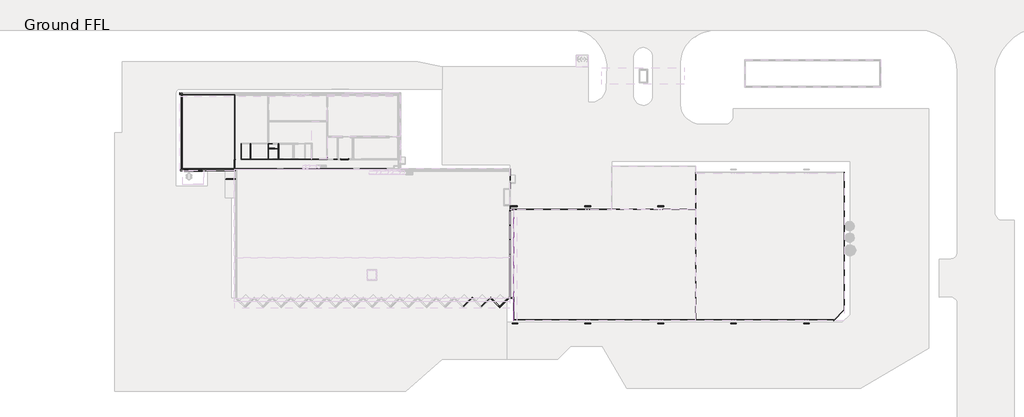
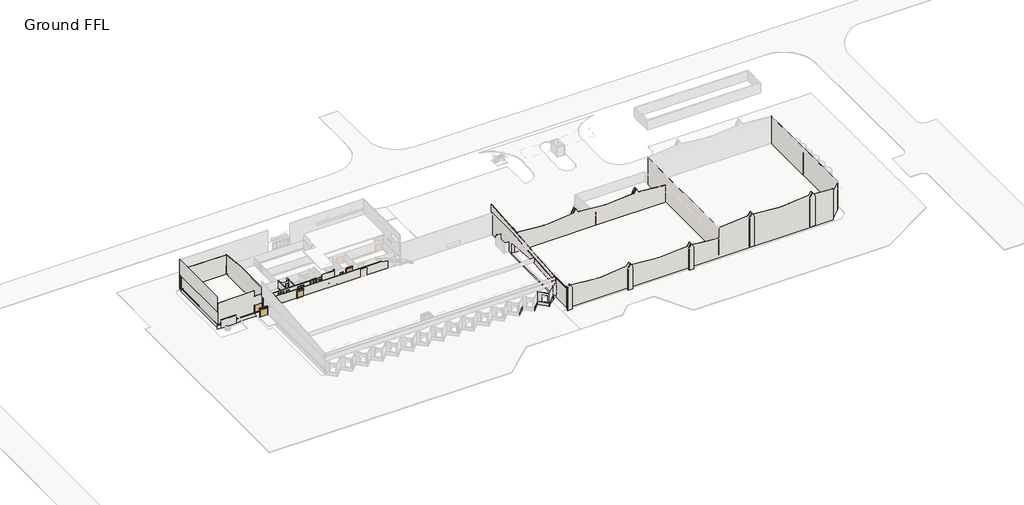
# One storey, part 3 of 7: 37 walls, 17 doors, 3 members, 2 plates.
"""IFC4 building model written with IfcOpenShell, lengths in millimetres."""

from ifc_helpers import new_model, si_unit, frame, origin, place, context, project, spatial, polyline, outline, extrude, faceted_brep, transform, mapped, element, save
from components import door_dfba81bd, door_a911d68e, door_e08fb2c4, door_3f0b7e55, door_2c6974ce, m_single_flush_1050_x_2134mm_707e642e, m_single_flush_1050_x_2134mm_0959f944, m_single_flush_1050_x_3000mm_fa7f7131, m_single_flush_1050_x_3000mm_ec5adb8e, rectangular_mullion_50_x_150mm_662c37b1, rectangular_mullion_50_x_150mm_849620c7, rectangular_mullion_50_x_150mm_64d38db8, system_panel_glazed_b6d9ad77, system_panel_glazed_a5baa60f

model = new_model("IFC4")

# Units and contexts
model_context = context("Model", 3, world=origin())
ifc_project = project(units=[si_unit("LENGTHUNIT", "METRE", prefix="MILLI")], contexts=[model_context])

# Site, building, storey
site = spatial("IfcSite", under=ifc_project)
building = spatial("IfcBuilding", under=site)
storey = spatial("IfcBuildingStorey", under=building, Name="Ground FFL", Elevation=44170.0)

# Doors
placement = place(None, origin())
door_shape = door_dfba81bd(model_context)
element("IfcDoor", 1, ObjectType="Rollershutter : 3000(w) x 3000(h)", at=placement, inside=storey, context=model_context, shape_type="MappedRepresentation", body=[
    mapped(door_shape, transform((-135297.9372768, 13108.2777512, 44170.0), x_axis=(0.0, -1.0, 0.0), y_axis=(1.0, 0.0, 0.0), z_axis=(0.0, 0.0, 1.0))),
])
door_2_shape = door_a911d68e(model_context)
element("IfcDoor", 2, ObjectType="Rollershutter : 3000(w) x 3000(h)", at=placement, inside=storey, context=model_context, shape_type="MappedRepresentation", body=[
    mapped(door_2_shape, transform((-137022.9372768, 8594.2225353, 44170.0), x_axis=(-1.0, 0.0, 0.0), y_axis=(0.0, -1.0, 0.0), z_axis=(0.0, 0.0, 1.0))),
])
door_3_shape = door_e08fb2c4(model_context)
element("IfcDoor", 3, ObjectType="Rollershutter : 3000(w) x 3000(h)", at=placement, inside=storey, context=model_context, shape_type="MappedRepresentation", body=[
    mapped(door_3_shape, transform((-137238.5917799, 11933.2777512, 44170.0), x_axis=(-1.0, 0.0, 0.0), y_axis=(0.0, -1.0, 0.0), z_axis=(0.0, 0.0, 1.0))),
])
door_4_shape = door_3f0b7e55(model_context)
element("IfcDoor", 4, ObjectType="Rollershutter : 25000(w) x 3000(h)", at=placement, inside=storey, context=model_context, shape_type="MappedRepresentation", body=[
    mapped(door_4_shape, transform((-120745.8776883, 11958.2777512, 44170.0), x_axis=(-1.0, 0.0, 0.0), y_axis=(0.0, -1.0, 0.0), z_axis=(0.0, 0.0, 1.0))),
])
door_5_shape = door_2c6974ce(model_context)
element("IfcDoor", 5, ObjectType="Rollershutter : 25000(w) x 3000(h)", at=placement, inside=storey, context=model_context, shape_type="MappedRepresentation", body=[
    mapped(door_5_shape, transform((-98727.9372768, 15157.4703267, 44170.0), x_axis=(1.0, 0.0, 0.0), y_axis=(0.0, 1.0, 0.0), z_axis=(0.0, 0.0, 1.0))),
])
m_single_flush_1050_x_2134mm_shape = m_single_flush_1050_x_2134mm_707e642e(model_context)
element("IfcDoor", 6, ObjectType="M_Single-Flush : 1050 x 2134mm", at=placement, inside=storey, context=model_context, shape_type="MappedRepresentation", body=[
    mapped(m_single_flush_1050_x_2134mm_shape, transform((-125486.9997768, 15157.4703267, 44170.0), x_axis=(1.0, 0.0, 0.0), y_axis=(0.0, 1.0, 0.0), z_axis=(0.0, 0.0, 1.0))),
])
element("IfcDoor", 7, ObjectType="M_Single-Flush : 1050 x 2134mm", at=placement, inside=storey, context=model_context, shape_type="MappedRepresentation", body=[
    mapped(m_single_flush_1050_x_2134mm_shape, transform((-123552.3747667, 20257.4925063, 44170.0), x_axis=(-1.0, 0.0, 0.0), y_axis=(0.0, -1.0, 0.0), z_axis=(0.0, 0.0, 1.0))),
])
element("IfcDoor", 8, ObjectType="M_Single-Flush : 1050 x 2134mm", at=placement, inside=storey, context=model_context, shape_type="MappedRepresentation", body=[
    mapped(m_single_flush_1050_x_2134mm_shape, transform((-117720.8747667, 15157.4703267, 44170.0), x_axis=(1.0, 0.0, 0.0), y_axis=(0.0, 1.0, 0.0), z_axis=(0.0, 0.0, 1.0))),
])
element("IfcDoor", 9, ObjectType="M_Single-Flush : 1050 x 2134mm", at=placement, inside=storey, context=model_context, shape_type="MappedRepresentation", body=[
    mapped(m_single_flush_1050_x_2134mm_shape, transform((-110705.4372768, 15157.4703267, 44170.0), x_axis=(1.0, 0.0, 0.0), y_axis=(0.0, 1.0, 0.0), z_axis=(0.0, 0.0, 1.0))),
])
element("IfcDoor", 10, ObjectType="M_Single-Flush : 1050 x 2134mm", at=placement, inside=storey, context=model_context, shape_type="MappedRepresentation", body=[
    mapped(m_single_flush_1050_x_2134mm_shape, transform((-102122.9372768, 15157.4703267, 44170.0), x_axis=(1.0, 0.0, 0.0), y_axis=(0.0, 1.0, 0.0), z_axis=(0.0, 0.0, 1.0))),
])
m_single_flush_1050_x_2134mm_2_shape = m_single_flush_1050_x_2134mm_0959f944(model_context)
element("IfcDoor", 11, ObjectType="M_Single-Flush : 1050 x 2134mm", at=placement, inside=storey, context=model_context, shape_type="MappedRepresentation", body=[
    mapped(m_single_flush_1050_x_2134mm_2_shape, transform((-132522.9372768, 15157.4703267, 44170.0), x_axis=(-1.0, 0.0, 0.0), y_axis=(0.0, -1.0, 0.0), z_axis=(0.0, 0.0, 1.0))),
])
element("IfcDoor", 12, ObjectType="M_Single-Flush : 1050 x 2134mm", at=placement, inside=storey, context=model_context, shape_type="MappedRepresentation", body=[
    mapped(m_single_flush_1050_x_2134mm_2_shape, transform((-126536.9372768, 15157.4703267, 44170.0), x_axis=(-1.0, 0.0, 0.0), y_axis=(0.0, -1.0, 0.0), z_axis=(0.0, 0.0, 1.0))),
])
element("IfcDoor", 13, ObjectType="M_Single-Flush : 1050 x 2134mm", at=placement, inside=storey, context=model_context, shape_type="MappedRepresentation", body=[
    mapped(m_single_flush_1050_x_2134mm_2_shape, transform((-123352.9372768, 15157.4703267, 44170.0), x_axis=(-1.0, 0.0, 0.0), y_axis=(0.0, -1.0, 0.0), z_axis=(0.0, 0.0, 1.0))),
])
element("IfcDoor", 14, ObjectType="M_Single-Flush : 1050 x 2134mm", at=placement, inside=storey, context=model_context, shape_type="MappedRepresentation", body=[
    mapped(m_single_flush_1050_x_2134mm_2_shape, transform((-118769.2576788, 15157.4703267, 44170.0), x_axis=(-1.0, 0.0, 0.0), y_axis=(0.0, -1.0, 0.0), z_axis=(0.0, 0.0, 1.0))),
])
element("IfcDoor", 15, ObjectType="M_Single-Flush : 1050 x 2134mm", at=placement, inside=storey, context=model_context, shape_type="MappedRepresentation", body=[
    mapped(m_single_flush_1050_x_2134mm_2_shape, transform((-121624.8747667, 18657.4703267, 44170.0), x_axis=(1.0, 0.0, 0.0), y_axis=(0.0, 1.0, 0.0), z_axis=(0.0, 0.0, 1.0))),
])
m_single_flush_1050_x_3000mm_shape = m_single_flush_1050_x_3000mm_fa7f7131(model_context)
element("IfcDoor", 16, ObjectType="M_Single-Flush : 1050 x 3000mm", at=placement, inside=storey, context=model_context, shape_type="MappedRepresentation", body=[
    mapped(m_single_flush_1050_x_3000mm_shape, transform((-113812.3747667, 15157.4703267, 44170.0), x_axis=(-1.0, 0.0, 0.0), y_axis=(0.0, -1.0, 0.0), z_axis=(0.0, 0.0, 1.0))),
])
m_single_flush_1050_x_3000mm_2_shape = m_single_flush_1050_x_3000mm_ec5adb8e(model_context)
element("IfcDoor", 17, ObjectType="M_Single-Flush : 1050 x 3000mm", at=placement, inside=storey, context=model_context, shape_type="MappedRepresentation", body=[
    mapped(m_single_flush_1050_x_3000mm_2_shape, transform((-112763.9918547, 15157.4703267, 44170.0), x_axis=(1.0, 0.0, 0.0), y_axis=(0.0, 1.0, 0.0), z_axis=(0.0, 0.0, 1.0))),
])

# Members
rectangular_mullion_50_x_150mm_shape = rectangular_mullion_50_x_150mm_662c37b1(model_context)
element("IfcMember", 18, ObjectType="Rectangular Mullion : 50 x 150mm", at=placement, inside=storey, context=model_context, shape_type="MappedRepresentation", body=[
    mapped(rectangular_mullion_50_x_150mm_shape, transform((-104897.9372768, 15567.4703267, 46570.0), x_axis=(0.0, -1.0, 0.0), y_axis=(1.0, 0.0, 0.0), z_axis=(0.0, 0.0, 1.0))),
])
rectangular_mullion_50_x_150mm_2_shape = rectangular_mullion_50_x_150mm_849620c7(model_context)
element("IfcMember", 19, ObjectType="Rectangular Mullion : 50 x 150mm", at=placement, inside=storey, context=model_context, shape_type="MappedRepresentation", body=[
    mapped(rectangular_mullion_50_x_150mm_2_shape, transform((-104897.9372768, 15567.4703267, 48170.0), x_axis=(0.0, -1.0, 0.0), y_axis=(1.0, 0.0, 0.0), z_axis=(0.0, 0.0, 1.0))),
])
rectangular_mullion_50_x_150mm_3_shape = rectangular_mullion_50_x_150mm_64d38db8(model_context)
element("IfcMember", 20, ObjectType="Rectangular Mullion : 50 x 150mm", at=placement, inside=storey, context=model_context, shape_type="MappedRepresentation", body=[
    mapped(rectangular_mullion_50_x_150mm_3_shape, transform((-104897.9372768, 15617.4703267, 44170.0), x_axis=(0.0, 0.0, -1.0), y_axis=(1.0, 0.0, 0.0), z_axis=(0.0, -1.0, 0.0))),
])

# Plates
system_panel_glazed_shape = system_panel_glazed_b6d9ad77(model_context)
element("IfcPlate", 21, ObjectType="System Panel : Glazed", at=placement, inside=storey, context=model_context, shape_type="MappedRepresentation", body=[
    mapped(system_panel_glazed_shape, transform((-104897.9372768, 15917.4703267, 44220.0), x_axis=(0.0, 1.0, 0.0), y_axis=(-1.0, 0.0, 0.0), z_axis=(0.0, 0.0, 1.0))),
])
system_panel_glazed_2_shape = system_panel_glazed_a5baa60f(model_context)
element("IfcPlate", 22, ObjectType="System Panel : Glazed", at=placement, inside=storey, context=model_context, shape_type="MappedRepresentation", body=[
    mapped(system_panel_glazed_2_shape, transform((-104897.9372768, 15917.4703267, 46595.0), x_axis=(0.0, 1.0, 0.0), y_axis=(-1.0, 0.0, 0.0), z_axis=(0.0, 0.0, 1.0))),
])

# Walls
element("IfcWall", 23, ObjectType="Isopanel", at=placement, inside=storey, context=model_context, shape_type="Brep", body=[
    faceted_brep([(-133247.9372768, 20307.4925063, 44170.0), (-133247.9372768, 15107.4703267, 44170.0), (-133247.9372768, 15107.4703267, 47670.0), (-133247.9372768, 20307.4925063, 47670.0), (-133147.9372768, 20307.4925063, 44170.0), (-133147.9372768, 20307.4925063, 47670.0), (-133147.9372768, 20207.4925063, 47670.0), (-133147.9372768, 15107.4703267, 47670.0), (-133147.9372768, 15107.4703267, 47170.0), (-133147.9372768, 15107.4703267, 44170.0), (-133147.9372768, 15207.4703267, 44170.0), (-133147.9372768, 20207.4925063, 44170.0)], [[[0, 1, 2, 3]], [[4, 5, 6, 7, 8, 9, 10, 11]], [[1, 0, 4, 11, 10, 9]], [[3, 2, 7, 6, 5]], [[2, 1, 9, 8, 7]], [[0, 3, 5, 4]]]),
])
element("IfcWall", 24, ObjectType="Isopanel", at=placement, inside=storey, context=model_context, shape_type="Brep", body=[
    faceted_brep([(-85525.8776883, 11908.2777512, 44170.0), (-85525.8776883, 11908.2777512, 47970.0), (-135347.9372768, 11908.2777512, 47970.0), (-135347.9372768, 11908.2777512, 44170.0), (-121595.8776883, 11908.2777512, 44170.0), (-121595.8776883, 11908.2777512, 47170.0), (-119095.8776883, 11908.2777512, 47170.0), (-119095.8776883, 11908.2777512, 44170.0), (-96475.8776883, 11908.2777512, 44170.0), (-96475.8776883, 11908.2777512, 47170.0), (-93975.8776883, 11908.2777512, 47170.0), (-93975.8776883, 11908.2777512, 44170.0), (-85525.8776883, 12008.2777512, 47970.0), (-85525.8776883, 12008.2777512, 44170.0), (-93975.8776883, 12008.2777512, 44170.0), (-93975.8776883, 12008.2777512, 47170.0), (-96475.8776883, 12008.2777512, 47170.0), (-96475.8776883, 12008.2777512, 44170.0), (-119095.8776883, 12008.2777512, 44170.0), (-119095.8776883, 12008.2777512, 47170.0), (-121595.8776883, 12008.2777512, 47170.0), (-121595.8776883, 12008.2777512, 44170.0), (-135347.9372768, 12008.2777512, 44170.0), (-135347.9372768, 12008.2777512, 47170.0), (-135347.9372768, 12008.2777512, 47970.0)], [[[0, 1, 2, 3, 4, 5, 6, 7, 8, 9, 10, 11]], [[12, 13, 14, 15, 16, 17, 18, 19, 20, 21, 22, 23, 24]], [[13, 0, 11, 14]], [[3, 22, 21, 4]], [[7, 18, 17, 8]], [[1, 0, 13, 12]], [[2, 1, 12, 24]], [[20, 5, 4, 21]], [[5, 20, 19, 6]], [[6, 19, 18, 7]], [[3, 2, 24, 23, 22]], [[16, 9, 8, 17]], [[9, 16, 15, 10]], [[10, 15, 14, 11]]]),
])
element("IfcWall", 25, ObjectType="Isopanel", at=placement, inside=storey, context=model_context, shape_type="Brep", body=[
    faceted_brep([(-48129.8504498, -33674.3222716, 44170.0), (-44977.2684992, -30521.740321, 44170.0), (-44877.2684992, -30421.740321, 44170.0), (-44877.2684992, -30421.740321, 48080.3515496), (-48129.8504498, -33674.3222716, 48080.3515496), (-48200.5611279, -33603.6115935, 44170.0), (-48200.5611279, -33603.6115935, 48080.3515496), (-48129.8504498, -33532.9009153, 48080.3515496), (-45018.6898554, -30421.740321, 48080.3515496), (-45018.6898554, -30421.740321, 44170.0), (-48129.8504498, -33532.9009153, 44170.0)], [[[0, 1, 2, 3, 4]], [[5, 6, 7, 8, 9, 10]], [[2, 1, 0, 5, 10, 9]], [[4, 3, 8, 7, 6]], [[0, 4, 6, 5]], [[3, 2, 9, 8]]]),
])
element("IfcWall", 26, ObjectType="Isopanel", at=placement, inside=storey, context=model_context, shape_type="Brep", body=[
    faceted_brep([(-48200.5611279, -33603.6115935, 48080.3515496), (-51122.5120901, -30681.6606312, 48080.3515496), (-51193.2227682, -30610.9499531, 48080.3515496), (-51193.2227682, -30610.9499531, 44170.0), (-51122.5120901, -30681.6606312, 44170.0), (-50123.8915727, -31680.2811486, 44170.0), (-50123.8915727, -31680.2811486, 47170.0), (-48568.2566541, -33235.9160672, 47170.0), (-48568.2566541, -33235.9160672, 44170.0), (-48200.5611279, -33603.6115935, 44170.0), (-51122.5120901, -30540.239275, 48080.3515496), (-48129.8504498, -33532.9009153, 48080.3515496), (-48129.8504498, -33532.9009153, 44170.0), (-48497.545976, -33165.2053891, 44170.0), (-48497.545976, -33165.2053891, 47170.0), (-50053.1808946, -31609.5704705, 47170.0), (-50053.1808946, -31609.5704705, 44170.0), (-51122.5120901, -30540.239275, 44170.0)], [[[0, 1, 2, 3, 4, 5, 6, 7, 8, 9]], [[10, 11, 12, 13, 14, 15, 16, 17]], [[12, 9, 8, 13]], [[3, 17, 16, 5, 4]], [[2, 1, 0, 11, 10]], [[0, 9, 12, 11]], [[15, 6, 5, 16]], [[6, 15, 14, 7]], [[7, 14, 13, 8]], [[3, 2, 10, 17]]]),
])
element("IfcWall", 27, ObjectType="300 bund wall", at=placement, inside=storey, context=model_context, shape_type="Brep", body=[
    faceted_brep([(-56895.7033364, -30469.5285969, 44170.0), (-57107.8353708, -30681.6606312, 44170.0), (-59888.3649768, -33462.1902372, 44170.0), (-59888.3649768, -33462.1902372, 42670.0), (-57107.8353708, -30681.6606312, 42670.0), (-56895.7033364, -30469.5285969, 42670.0), (-60100.4970111, -33250.0582029, 44170.0), (-57107.8353708, -30257.3965625, 44170.0), (-57107.8353708, -30257.3965625, 42670.0), (-60100.4970111, -33250.0582029, 42670.0)], [[[0, 1, 2, 3, 4, 5]], [[6, 7, 8, 9]], [[2, 1, 0, 7, 6]], [[5, 4, 3, 9, 8]], [[3, 2, 6, 9]], [[0, 5, 8, 7]]]),
])
element("IfcWall", 28, ObjectType="300 bund wall", at=placement, inside=storey, context=model_context, shape_type="Brep", body=[
    faceted_brep([(-50910.3800558, -30469.5285969, 44170.0), (-51122.5120901, -30681.6606312, 44170.0), (-53903.0416961, -33462.1902372, 44170.0), (-53903.0416961, -33462.1902372, 42670.0), (-51122.5120901, -30681.6606312, 42670.0), (-50910.3800558, -30469.5285969, 42670.0), (-54115.1737304, -33250.0582029, 44170.0), (-51122.5120901, -30257.3965625, 44170.0), (-51122.5120901, -30257.3965625, 42670.0), (-54115.1737304, -33250.0582029, 42670.0)], [[[0, 1, 2, 3, 4, 5]], [[6, 7, 8, 9]], [[2, 1, 0, 7, 6]], [[5, 4, 3, 9, 8]], [[3, 2, 6, 9]], [[0, 5, 8, 7]]]),
])
element("IfcWall", 29, ObjectType="300 bund wall", at=placement, inside=storey, context=model_context, shape_type="Brep", body=[
    faceted_brep([(-50910.3800558, -30469.5285969, 44170.0), (-48129.8504498, -33250.0582029, 44170.0), (-47917.7184154, -33462.1902372, 44170.0), (-47917.7184154, -33462.1902372, 42670.0), (-48129.8504498, -33250.0582029, 42670.0), (-50910.3800558, -30469.5285969, 42670.0), (-51122.5120901, -30681.6606312, 44170.0), (-51122.5120901, -30681.6606312, 42670.0), (-48129.8504498, -33674.3222716, 42670.0), (-48129.8504498, -33674.3222716, 44170.0)], [[[0, 1, 2, 3, 4, 5]], [[6, 7, 8, 9]], [[2, 1, 0, 6, 9]], [[5, 4, 3, 8, 7]], [[3, 2, 9, 8]], [[0, 5, 7, 6]]]),
])
element("IfcWall", 30, ObjectType="300 bund wall", at=placement, inside=storey, context=model_context, shape_type="SweptSolid", body=[
    extrude(outline(polyline([(-45033.3345164, -30577.8063382), (-47917.7184154, -33462.1902372), (-48129.8504498, -33250.0582029), (-45245.4665507, -30365.6743038), (-45033.3345164, -30577.8063382)])), frame((0.0, 0.0, 42670.0), z_axis=(0.0, 0.0, 1.0), x_axis=(1.0, 0.0, 0.0)), (0.0, 0.0, 1.0), 1500.0),
])
element("IfcWall", 31, ObjectType="Isopanel 50mm", at=placement, inside=storey, context=model_context, shape_type="Brep", body=[
    faceted_brep([(-152848.6902477, 11908.2777512, 44170.0), (-152848.6902477, 11958.2777512, 44170.0), (-152848.6902477, 36405.969902, 44170.0), (-152848.6902477, 36455.969902, 44170.0), (-152848.6902477, 36455.969902, 52370.0), (-152848.6902477, 36455.969902, 52400.2619438), (-152848.6902477, 27657.8236602, 53170.0), (-152848.6902477, 11958.2777512, 53170.0), (-152848.6902477, 11908.2777512, 53170.0), (-152898.6902477, 11908.2777512, 44170.0), (-152898.6902477, 11908.2777512, 53170.0), (-152898.6902477, 27657.8236602, 53170.0), (-152898.6902477, 36455.969902, 52400.2619438), (-152898.6902477, 36455.969902, 44170.0)], [[[0, 1, 2, 3, 4, 5, 6, 7, 8]], [[9, 10, 11, 12, 13]], [[0, 8, 10, 9]], [[5, 4, 3, 13, 12]], [[3, 2, 1, 0, 9, 13]], [[8, 7, 6, 11, 10]], [[6, 5, 12, 11]]]),
])
element("IfcWall", 32, ObjectType="Isopanel 50mm", at=placement, inside=storey, context=model_context, shape_type="SweptSolid", body=[
    extrude(outline(polyline([(53170.0, -152848.6902477), (44170.0, -152848.6902477), (44170.0, -138338.5917799), (47170.0, -138338.5917799), (47170.0, -135419.5917799), (53170.0, -135419.5917799), (53170.0, -135438.5917799), (51007.9066037, -135438.5917799), (51007.9066037, -138407.7798584), (53170.0, -138407.7798584), (53170.0, -152848.6902477)])), frame((0.0, 11908.2777512, 0.0), z_axis=(0.0, 1.0, 0.0), x_axis=(0.0, 0.0, 1.0)), (0.0, 0.0, 1.0), 50.0),
])
element("IfcWall", 33, ObjectType="300 bund wall", at=placement, inside=storey, context=model_context, shape_type="Brep", body=[
    faceted_brep([(-152898.6902477, 36973.4058517, 42669.4970536), (-152898.6902477, 11823.4058517, 42669.4970536), (-152898.6902477, 11823.4058517, 44170.0), (-152898.6902477, 36973.4058517, 44170.0), (-152598.6902477, 36973.4058517, 42669.4970536), (-152598.6902477, 36973.4058517, 42670.0), (-152598.6902477, 36973.4058517, 44170.0), (-152598.6902477, 36673.4058517, 44170.0), (-152598.6902477, 11823.4058517, 44170.0), (-152598.6902477, 11823.4058517, 42669.4970536)], [[[0, 1, 2, 3]], [[4, 5, 6, 7, 8, 9]], [[1, 0, 4, 9]], [[2, 1, 9, 8]], [[3, 2, 8, 7, 6]], [[0, 3, 6, 5, 4]]]),
])
element("IfcWall", 34, ObjectType="Isopanel", at=placement, inside=storey, context=model_context, shape_type="Brep", body=[
    faceted_brep([(-44699.0423298, -183.3646197, 44170.0), (-44699.0423298, -1493.7222488, 44170.0), (-44699.0423298, -1493.7222488, 48665.8520433), (-44699.0423298, -15971.5524704, 49932.4980602), (-44699.0423298, -30121.740321, 48694.5170365), (-44699.0423298, -30121.740321, 50855.3978072), (-44699.0423298, -2522.7109667, 53270.0), (-44699.0423298, 11388.2777512, 53270.0), (-44699.0423298, 11488.2777512, 53270.0), (-44699.0423298, 11488.2777512, 44181.9525163), (-44699.0423298, 8267.9058517, 44181.9525163), (-44699.0423298, 8267.9058517, 46200.0), (-44699.0423298, 7454.9058517, 46200.0), (-44699.0423298, 7454.9058517, 44181.9525163), (-44699.0423298, 5436.2777512, 44181.9525163), (-44699.0423298, 5436.2777512, 46190.0), (-44699.0423298, 131.6353803, 46190.0), (-44699.0423298, -98.3646197, 46190.0), (-44699.0423298, -183.3646197, 46190.0), (-44599.0423298, -1493.7222488, 44170.0), (-44599.0423298, -1390.3646197, 44170.0), (-44599.0423298, -1290.3646197, 44170.0), (-44599.0423298, -183.3646197, 44170.0), (-44599.0423298, -183.3646197, 46190.0), (-44599.0423298, 5436.2777512, 46190.0), (-44599.0423298, 5436.2777512, 44181.9525163), (-44599.0423298, 7454.9058517, 44181.9525163), (-44599.0423298, 7454.9058517, 46200.0), (-44599.0423298, 8267.9058517, 46200.0), (-44599.0423298, 8267.9058517, 44181.9525163), (-44599.0423298, 11488.2777512, 44181.9525163), (-44599.0423298, 11488.2777512, 53270.0), (-44599.0423298, -2522.7109667, 53270.0), (-44599.0423298, -30121.740321, 50855.3978072), (-44599.0423298, -30121.740321, 48694.5170365), (-44599.0423298, -15971.5524704, 49932.4980602), (-44599.0423298, -1493.7222488, 48665.8520433), (-44637.0423298, 11488.2777512, 53270.0)], [[[0, 1, 2, 3, 4, 5, 6, 7, 8, 9, 10, 11, 12, 13, 14, 15, 16, 17, 18]], [[19, 20, 21, 22, 23, 24, 25, 26, 27, 28, 29, 30, 31, 32, 33, 34, 35, 36]], [[1, 0, 22, 21, 20, 19]], [[2, 1, 19, 36]], [[9, 8, 37, 31, 30]], [[12, 27, 26, 13]], [[27, 12, 11, 28]], [[28, 11, 10, 29]], [[8, 7, 6, 32, 31, 37]], [[9, 30, 29, 10]], [[14, 13, 26, 25]], [[18, 17, 16, 15, 24, 23]], [[18, 23, 22, 0]], [[15, 14, 25, 24]], [[3, 2, 36, 35]], [[4, 3, 35, 34]], [[5, 4, 34, 33]], [[6, 5, 33, 32]]]),
])
element("IfcWall", 35, ObjectType="Isopanel", at=placement, inside=storey, context=model_context, shape_type="Brep", body=[
    faceted_brep([(-43426.8610299, -1290.3646197, 44170.0), (-44599.0423298, -1290.3646197, 44170.0), (-44599.0423298, -1290.3646197, 48870.0), (-43426.8610299, -1290.3646197, 48870.0), (-43426.8610299, -1390.3646197, 44170.0), (-43426.8610299, -1390.3646197, 48870.0), (-43512.5353134, -1390.3646197, 48870.0), (-43550.5353134, -1390.3646197, 48870.0), (-44599.0423298, -1390.3646197, 48870.0), (-44599.0423298, -1390.3646197, 44170.0)], [[[0, 1, 2, 3]], [[4, 5, 6, 7, 8, 9]], [[1, 0, 4, 9]], [[3, 2, 8, 7, 6, 5]], [[0, 3, 5, 4]], [[1, 9, 8, 2]]]),
])
element("IfcWall", 36, ObjectType="Isopanel", at=placement, inside=storey, context=model_context, shape_type="Brep", body=[
    faceted_brep([(-44977.2684992, -30521.740321, 44170.0), (-43550.3918982, -30521.740321, 44170.0), (-43550.3918982, -30521.740321, 48870.0), (-44977.2684992, -30521.740321, 48870.0), (-44877.2684992, -30421.740321, 44170.0), (-44877.2684992, -30421.740321, 48080.3515496), (-44877.2684992, -30421.740321, 48870.0), (-43550.3918982, -30421.740321, 48870.0), (-43550.3918982, -30421.740321, 44170.0)], [[[0, 1, 2, 3]], [[4, 5, 6, 7, 8]], [[1, 0, 4, 8]], [[3, 2, 7, 6]], [[2, 1, 8, 7]], [[0, 3, 6, 5, 4]]]),
])
element("IfcWall", 37, ObjectType="300 bund wall", at=placement, inside=storey, context=model_context, shape_type="SweptSolid", body=[
    extrude(outline(polyline([(-153250.5917799, 11748.2777512), (-134900.5917799, 11748.2777512), (-134900.5917799, 11448.2777512), (-153250.5917799, 11448.2777512), (-153250.5917799, 11748.2777512)])), frame((0.0, 0.0, 42670.0), z_axis=(0.0, 0.0, 1.0), x_axis=(1.0, 0.0, 0.0)), (0.0, 0.0, 1.0), 1500.0),
])
element("IfcWall", 38, ObjectType="Isopanel", at=placement, inside=storey, context=model_context, shape_type="Brep", body=[
    faceted_brep([(-133047.9372768, 15207.4703267, 46304.0), (-133047.9372768, 15207.4703267, 44170.0), (-133147.9372768, 15207.4703267, 44170.0), (-133147.9372768, 15207.4703267, 47170.0), (-114337.3747667, 15207.4703267, 47170.0), (-114337.3747667, 15207.4703267, 44170.0), (-115927.3747667, 15207.4703267, 44170.0), (-116027.3747667, 15207.4703267, 44170.0), (-117195.8747667, 15207.4703267, 44170.0), (-117195.8747667, 15207.4703267, 46304.0), (-119294.2576788, 15207.4703267, 46304.0), (-119294.2576788, 15207.4703267, 44170.0), (-120827.3747667, 15207.4703267, 44170.0), (-120927.3747667, 15207.4703267, 44170.0), (-122827.9372768, 15207.4703267, 44170.0), (-122827.9372768, 15207.4703267, 46304.0), (-123877.9372768, 15207.4703267, 46304.0), (-123877.9372768, 15207.4703267, 44170.0), (-124247.9372768, 15207.4703267, 44170.0), (-124347.9372768, 15207.4703267, 44170.0), (-124961.9997768, 15207.4703267, 44170.0), (-124961.9997768, 15207.4703267, 46304.0), (-127061.9372768, 15207.4703267, 46304.0), (-127061.9372768, 15207.4703267, 44170.0), (-130047.9372768, 15207.4703267, 44170.0), (-130147.9372768, 15207.4703267, 44170.0), (-131997.9372768, 15207.4703267, 44170.0), (-131997.9372768, 15207.4703267, 46304.0), (-133047.9372768, 15107.4703267, 44170.0), (-133047.9372768, 15107.4703267, 46304.0), (-131997.9372768, 15107.4703267, 46304.0), (-131997.9372768, 15107.4703267, 44170.0), (-127061.9372768, 15107.4703267, 44170.0), (-127061.9372768, 15107.4703267, 46304.0), (-124961.9997768, 15107.4703267, 46304.0), (-124961.9997768, 15107.4703267, 44170.0), (-123877.9372768, 15107.4703267, 44170.0), (-123877.9372768, 15107.4703267, 46304.0), (-122827.9372768, 15107.4703267, 46304.0), (-122827.9372768, 15107.4703267, 44170.0), (-119294.2576788, 15107.4703267, 44170.0), (-119294.2576788, 15107.4703267, 46304.0), (-117195.8747667, 15107.4703267, 46304.0), (-117195.8747667, 15107.4703267, 44170.0), (-114337.3747667, 15107.4703267, 44170.0), (-114337.3747667, 15107.4703267, 47170.0), (-133147.9372768, 15107.4703267, 47170.0), (-133147.9372768, 15107.4703267, 44170.0)], [[[0, 1, 2, 3, 4, 5, 6, 7, 8, 9, 10, 11, 12, 13, 14, 15, 16, 17, 18, 19, 20, 21, 22, 23, 24, 25, 26, 27]], [[28, 29, 30, 31, 32, 33, 34, 35, 36, 37, 38, 39, 40, 41, 42, 43, 44, 45, 46, 47]], [[1, 28, 47, 2]], [[31, 26, 25, 24, 23, 32]], [[35, 20, 19, 18, 17, 36]], [[11, 40, 39, 14, 13, 12]], [[43, 8, 7, 6, 5, 44]], [[3, 46, 45, 4]], [[29, 28, 1, 0]], [[30, 29, 0, 27]], [[31, 30, 27, 26]], [[3, 2, 47, 46]], [[33, 32, 23, 22]], [[33, 22, 21, 34]], [[34, 21, 20, 35]], [[16, 37, 36, 17]], [[15, 38, 37, 16]], [[38, 15, 14, 39]], [[41, 40, 11, 10]], [[41, 10, 9, 42]], [[42, 9, 8, 43]], [[5, 4, 45, 44]]]),
    faceted_brep([(-112238.9918547, 15207.4703267, 44170.0), (-112238.9918547, 15207.4703267, 47170.0), (-110127.9372768, 15207.4703267, 47170.0), (-110127.9372768, 15207.4703267, 44170.0), (-110180.4372768, 15207.4703267, 44170.0), (-110180.4372768, 15207.4703267, 46304.0), (-111230.4372768, 15207.4703267, 46304.0), (-111230.4372768, 15207.4703267, 44170.0), (-112027.3747667, 15207.4703267, 44170.0), (-112127.3747667, 15207.4703267, 44170.0), (-112238.9918547, 15107.4703267, 47170.0), (-112238.9918547, 15107.4703267, 44170.0), (-111230.4372768, 15107.4703267, 44170.0), (-111230.4372768, 15107.4703267, 46304.0), (-110180.4372768, 15107.4703267, 46304.0), (-110180.4372768, 15107.4703267, 44170.0), (-110127.9372768, 15107.4703267, 44170.0), (-110127.9372768, 15107.4703267, 47170.0)], [[[0, 1, 2, 3, 4, 5, 6, 7, 8, 9]], [[10, 11, 12, 13, 14, 15, 16, 17]], [[11, 0, 9, 8, 7, 12]], [[3, 16, 15, 4]], [[17, 2, 1, 10]], [[1, 0, 11, 10]], [[3, 2, 17, 16]], [[5, 14, 13, 6]], [[6, 13, 12, 7]], [[14, 5, 4, 15]]]),
])
element("IfcWall", 39, ObjectType="Isopanel", at=placement, inside=storey, context=model_context, shape_type="SweptSolid", body=[
    extrude(outline(polyline([(-130147.9372768, 15207.4703267), (-130147.9372768, 20207.4925063), (-130047.9372768, 20207.4925063), (-130047.9372768, 15207.4703267), (-130147.9372768, 15207.4703267)])), frame((0.0, 0.0, 44170.0), z_axis=(0.0, 0.0, 1.0), x_axis=(1.0, 0.0, 0.0)), (0.0, 0.0, 1.0), 3500.0),
])
element("IfcWall", 40, ObjectType="Isopanel", at=placement, inside=storey, context=model_context, shape_type="Brep", body=[
    faceted_brep([(-124347.9372768, 20207.4925063, 44170.0), (-124347.9372768, 15207.4703267, 44170.0), (-124347.9372768, 15207.4703267, 47670.0), (-124347.9372768, 20207.4925063, 47670.0), (-124247.9372768, 20207.4925063, 44170.0), (-124247.9372768, 20207.4925063, 47670.0), (-124247.9372768, 15207.4703267, 47670.0), (-124247.9372768, 15207.4703267, 44170.0), (-124247.9372768, 18607.4703267, 44170.0), (-124247.9372768, 18707.4703267, 44170.0)], [[[0, 1, 2, 3]], [[4, 5, 6, 7, 8, 9]], [[1, 0, 4, 9, 8, 7]], [[3, 2, 6, 5]], [[0, 3, 5, 4]], [[2, 1, 7, 6]]]),
])
element("IfcWall", 41, ObjectType="Isopanel", at=placement, inside=storey, context=model_context, shape_type="Brep", body=[
    faceted_brep([(-120927.3747667, 20207.4925063, 44170.0), (-120927.3747667, 18707.4703267, 44170.0), (-120927.3747667, 18607.4703267, 44170.0), (-120927.3747667, 15207.4703267, 44170.0), (-120927.3747667, 15207.4703267, 47670.0), (-120927.3747667, 20207.4925063, 47670.0), (-120827.3747667, 20207.4925063, 44170.0), (-120827.3747667, 20207.4925063, 47670.0), (-120827.3747667, 15207.4703267, 47670.0), (-120827.3747667, 15207.4703267, 44170.0)], [[[0, 1, 2, 3, 4, 5]], [[6, 7, 8, 9]], [[3, 2, 1, 0, 6, 9]], [[5, 4, 8, 7]], [[0, 5, 7, 6]], [[4, 3, 9, 8]]]),
])
element("IfcWall", 42, ObjectType="Isopanel", at=placement, inside=storey, context=model_context, shape_type="SweptSolid", body=[
    extrude(outline(polyline([(46304.0, -121099.8747667), (44170.0, -121099.8747667), (44170.0, -120927.3747667), (47170.0, -120927.3747667), (47170.0, -124247.9372768), (44170.0, -124247.9372768), (44170.0, -122149.8747667), (46304.0, -122149.8747667), (46304.0, -121099.8747667)])), frame((0.0, 18607.4703267, 0.0), z_axis=(0.0, 1.0, 0.0), x_axis=(0.0, 0.0, 1.0)), (0.0, 0.0, 1.0), 100.0),
])
element("IfcWall", 43, ObjectType="Isopanel", at=placement, inside=storey, context=model_context, shape_type="SweptSolid", body=[
    extrude(outline(polyline([(-110027.9372768, 15207.4703267), (-104947.9372768, 15207.4703267), (-104947.9372768, 15107.4703267), (-110027.9372768, 15107.4703267), (-110027.9372768, 15207.4703267)])), frame((0.0, 0.0, 44170.0), z_axis=(0.0, 0.0, 1.0), x_axis=(1.0, 0.0, 0.0)), (0.0, 0.0, 1.0), 3871.6656911),
])
element("IfcWall", 44, ObjectType="Isopanel", at=placement, inside=storey, context=model_context, shape_type="Brep", body=[
    faceted_brep([(-135347.9372768, 12008.2777512, 53270.0), (-135347.9372768, 26514.8184299, 53270.0), (-135347.9372768, 36355.969902, 52409.0108102), (-135347.9372768, 36355.969902, 44170.0), (-135347.9372768, 15008.2777512, 44170.0), (-135347.9372768, 15008.2777512, 47170.0), (-135347.9372768, 12008.2777512, 47170.0), (-135347.9372768, 12008.2777512, 47970.0), (-135247.9372768, 26514.8184299, 53270.0), (-135247.9372768, 12008.2777512, 53270.0), (-135247.9372768, 12008.2777512, 47170.0), (-135247.9372768, 15008.2777512, 47170.0), (-135247.9372768, 15008.2777512, 44170.0), (-135247.9372768, 36355.969902, 44170.0), (-135247.9372768, 36355.969902, 52409.0108102)], [[[0, 1, 2, 3, 4, 5, 6, 7]], [[8, 9, 10, 11, 12, 13, 14]], [[3, 2, 14, 13]], [[9, 0, 7, 6, 10]], [[3, 13, 12, 4]], [[1, 0, 9, 8]], [[2, 1, 8, 14]], [[5, 11, 10, 6]], [[11, 5, 4, 12]]]),
])
element("IfcWall", 45, ObjectType="300 bund wall", at=placement, inside=storey, context=model_context, shape_type="SweptSolid", body=[
    extrude(outline(polyline([(-44899.0423298, -30471.740321), (-44899.0423298, -1493.7222488), (-44599.0423298, -1493.7222488), (-44599.0423298, -30471.740321), (-44899.0423298, -30471.740321)])), frame((0.0, 0.0, 42669.4970536), z_axis=(0.0, 0.0, 1.0), x_axis=(1.0, 0.0, 0.0)), (0.0, 0.0, 1.0), 1500.5029464),
])
element("IfcWall", 46, ObjectType="Isopanel 50mm", at=placement, inside=storey, context=model_context, shape_type="SweptSolid", body=[
    extrude(outline(polyline([(44170.0, -152848.6902477), (44170.0, -135348.6902477), (47720.0, -135348.6902477), (47720.0, -135247.9372768), (52370.0, -135247.9372768), (52370.0, -152848.6902477), (44170.0, -152848.6902477)])), frame((0.0, 36405.969902, 0.0), z_axis=(0.0, 1.0, 0.0), x_axis=(0.0, 0.0, 1.0)), (0.0, 0.0, 1.0), 50.0),
])
element("IfcWall", 47, ObjectType="Cladding", at=placement, inside=storey, context=model_context, shape_type="SweptSolid", body=[
    extrude(outline(polyline([(12086.2777512, 44670.0), (11438.2777512, 44670.0), (11438.2777512, 53170.0), (-3665.716197, 53170.0), (-30606.740321, 50812.9658054), (-30606.740321, 52670.1861184), (12086.2777512, 56398.7878525), (12086.2777512, 44670.0)])), frame((-44637.0423298, 0.0, 0.0), z_axis=(1.0, 0.0, 0.0), x_axis=(0.0, 1.0, 0.0)), (0.0, 0.0, 1.0), 38.0),
])
element("IfcWall", 48, ObjectType="Cladding 3", at=placement, inside=storey, context=model_context, shape_type="Brep", body=[
    faceted_brep([(-153438.6902477, 36455.969902, 50170.0), (-153438.6902477, 36455.969902, 44170.0), (-153438.6902477, 37027.0854127, 44170.0), (-153438.6902477, 37027.0854127, 56370.0), (-153438.6902477, 11358.2777512, 56370.0), (-153438.6902477, 11358.2777512, 50170.0), (-153476.6902477, 36455.969902, 50170.0), (-153476.6902477, 11358.2777512, 50170.0), (-153476.6902477, 11358.2777512, 56370.0), (-153476.6902477, 37027.0854127, 56370.0), (-153476.6902477, 37027.0854127, 56320.0), (-153476.6902477, 37027.0854127, 44170.0), (-153476.6902477, 36455.969902, 44170.0)], [[[0, 1, 2, 3, 4, 5]], [[6, 7, 8, 9, 10, 11, 12]], [[0, 5, 7, 6]], [[4, 3, 9, 8]], [[5, 4, 8, 7]], [[1, 0, 6, 12]], [[2, 1, 12, 11]], [[3, 2, 11, 10, 9]]]),
])
element("IfcWall", 49, ObjectType="Cladding dark", at=placement, inside=storey, context=model_context, shape_type="Brep", body=[
    faceted_brep([(16410.8578757, 10794.6738606, 55438.8624887), (16410.8578757, 10794.6738606, 55437.2013472), (16410.8578757, 10794.6738606, 44170.0), (16410.8578757, -37597.7517261, 44170.0), (16410.8578757, -37597.7517261, 55438.8624887), (16448.8578757, 10794.6738606, 44170.0), (16448.8578757, 10794.6738606, 55438.8624887), (16448.8578757, -37597.7517261, 55438.8624887), (16448.8578757, -37597.7517261, 44170.0)], [[[0, 1, 2, 3, 4]], [[5, 6, 7, 8]], [[3, 2, 5, 8]], [[0, 4, 7, 6]], [[0, 6, 5, 2, 1]], [[4, 3, 8, 7]]]),
])
element("IfcWall", 50, ObjectType="Cladding dark", at=placement, inside=storey, context=model_context, shape_type="Brep", body=[
    faceted_brep([(61770.1629623, -37979.7611682, 44170.0), (65322.3917817, -34427.5323488, 44170.0), (65322.3917817, -34427.5323488, 55390.0), (61770.1629623, -37979.7611682, 55390.0), (61743.2929046, -37952.8911105, 44170.0), (61743.2929046, -37952.8911105, 55390.0), (65322.3917817, -34373.7922334, 55390.0), (65322.3917817, -34373.7922334, 44170.0), (65284.3917817, -34411.7922334, 44170.0)], [[[0, 1, 2, 3]], [[4, 5, 6, 7, 8]], [[1, 0, 4, 8, 7]], [[3, 2, 6, 5]], [[0, 3, 5, 4]], [[2, 1, 7, 6]]]),
])
element("IfcWall", 51, ObjectType="Cladding dark", at=placement, inside=storey, context=model_context, shape_type="Brep", body=[
    faceted_brep([(65322.3917817, -34373.7922334, 44170.0), (65322.3917817, 10832.6738606, 44170.0), (65322.3917817, 10832.6738606, 55473.6027116), (65322.3917817, -34373.7922334, 55473.6027116), (65322.3917817, -34373.7922334, 55390.0), (65284.3917817, -34411.7922334, 44170.0), (65284.3917817, -34411.7922334, 55473.6027116), (65284.3917817, 10832.6738606, 55473.6027116), (65284.3917817, 10832.6738606, 44170.0)], [[[0, 1, 2, 3, 4]], [[5, 6, 7, 8]], [[1, 0, 5, 8]], [[2, 1, 8, 7]], [[3, 2, 7, 6]], [[0, 4, 3, 6, 5]]]),
])
element("IfcWall", 52, ObjectType="Cladding dark", at=placement, inside=storey, context=model_context, shape_type="SweptSolid", body=[
    extrude(outline(polyline([(42870.0, 16410.8578757), (51277.1525482, 16410.8578757), (52214.7066954, 5694.5649368), (53723.2295724, 4823.6188477), (52193.6236169, 3940.5004375), (51220.7047128, -7180.0135227), (52193.6236169, -18300.527483), (53723.2295724, -19183.6458931), (52214.7066954, -20054.5919822), (51234.4585892, -31258.8791053), (52214.7066954, -42463.1662283), (53723.2295724, -43334.1123175), (52286.9508896, -44163.3482016), (42870.0, -44163.3482016), (42870.0, 16410.8578757)])), frame((0.0, -1359.3646197, 0.0), z_axis=(0.0, 1.0, 0.0), x_axis=(0.0, 0.0, 1.0)), (0.0, 0.0, 1.0), 38.0),
])
element("IfcWall", 53, ObjectType="Cladding dark", at=placement, inside=storey, context=model_context, shape_type="SweptSolid", body=[
    extrude(outline(polyline([(-37966.3261394, 48649.1104201), (-37966.3261394, 51230.0), (-1359.3646197, 51230.0), (-1359.3646197, 48870.0), (-1390.3646197, 48870.0), (-1390.3646197, 48654.0484693), (-19650.1242993, 50251.57044), (-37966.3261394, 48649.1104201)])), frame((-43550.5353134, 0.0, 0.0), z_axis=(1.0, 0.0, 0.0), x_axis=(0.0, 1.0, 0.0)), (0.0, 0.0, 1.0), 38.0),
])
element("IfcWall", 54, ObjectType="Cladding dark", at=placement, inside=storey, context=model_context, shape_type="SweptSolid", body=[
    extrude(outline(polyline([(-43550.3918982, -37597.7517261), (-43550.3918982, -30321.740321), (-43512.3918982, -30321.740321), (-43512.3918982, -37597.7517261), (-43550.3918982, -37597.7517261)])), frame((0.0, 0.0, 42874.6226438), z_axis=(0.0, 0.0, 1.0), x_axis=(1.0, 0.0, 0.0)), (0.0, 0.0, 1.0), 8100.0),
])
element("IfcWall", 55, ObjectType="Cladding dark", at=placement, inside=storey, context=model_context, shape_type="SweptSolid", body=[
    extrude(outline(polyline([(55740.7769312, 61756.7279334), (56447.5536477, 53678.2330977), (57912.3598008, 52832.5268709), (56446.1890819, 51986.0328117), (55455.687573, 40664.5487587), (56415.2292064, 29696.9377022), (57912.3898782, 28832.5515853), (56415.2542805, 27968.179945), (55406.4607625, 16448.8578757), (51093.0600358, 16448.8578757), (52032.0537918, 5716.1101325), (53529.1622152, 4851.7541813), (52032.1154378, 3987.4338214), (51057.8634933, -7148.3168609), (52032.1016716, -18283.9101941), (53529.1733026, -19148.2449032), (52031.8500367, -20012.7248939), (51058.4965918, -31138.205678), (52126.835241, -43512.5353134), (42870.0, -43512.5353134), (42870.0, 61756.7279334), (55740.7769312, 61756.7279334)])), frame((0.0, -37635.7517261, 0.0), z_axis=(0.0, 1.0, 0.0), x_axis=(0.0, 0.0, 1.0)), (0.0, 0.0, 1.0), 38.0),
])
element("IfcWall", 56, ObjectType="Orange wide", at=placement, inside=storey, context=model_context, shape_type="SweptSolid", body=[
    extrude(outline(polyline([(53739.684055, -19174.1458931), (52083.9090321, -20130.1080483), (42870.0, -20130.1080483), (42870.0, -18230.1080483), (52104.5625436, -18230.1080483), (53739.684055, -19174.1458931)])), frame((0.0, -483.3646197, 0.0), z_axis=(0.0, 1.0, 0.0), x_axis=(0.0, 0.0, 1.0)), (0.0, 0.0, 1.0), 300.0),
    extrude(outline(polyline([(42870.0, 3892.6188477), (42870.0, 5792.6188477), (52077.7813052, 5792.6188477), (53723.2295724, 4842.6188477), (52077.7813052, 3892.6188477), (42870.0, 3892.6188477)])), frame((0.0, -483.3646197, 0.0), z_axis=(0.0, 1.0, 0.0), x_axis=(0.0, 0.0, 1.0)), (0.0, 0.0, 1.0), 300.0),
    extrude(outline(polyline([(53739.684055, -43343.6123175), (52083.9090321, -44299.5744727), (42870.0, -44299.5744727), (42870.0, -42399.5744727), (52104.5625436, -42399.5744727), (53739.684055, -43343.6123175)])), frame((0.0, -483.3646197, 0.0), z_axis=(0.0, 1.0, 0.0), x_axis=(0.0, 0.0, 1.0)), (0.0, 0.0, 1.0), 300.0),
])
element("IfcWall", 57, ObjectType="Orange wide", at=placement, inside=storey, context=model_context, shape_type="SweptSolid", body=[
    extrude(outline(polyline([(58083.2295724, 28797.5391285), (56437.7813052, 27847.5391285), (44170.0, 27847.5391285), (44170.0, 29747.5391285), (56437.7813052, 29747.5391285), (58083.2295724, 28797.5391285)])), frame((0.0, -39037.3261394, 0.0), z_axis=(0.0, 1.0, 0.0), x_axis=(0.0, 0.0, 1.0)), (0.0, 0.0, 1.0), 300.0),
    extrude(outline(polyline([(44170.0, 51863.0614262), (44170.0, 53763.0614262), (56437.7813052, 53763.0614262), (58083.2295724, 52813.0614262), (56437.7813052, 51863.0614262), (44170.0, 51863.0614262)])), frame((0.0, -39037.3261394, 0.0), z_axis=(0.0, 1.0, 0.0), x_axis=(0.0, 0.0, 1.0)), (0.0, 0.0, 1.0), 300.0),
])
element("IfcWall", 58, ObjectType="Orange wide", at=placement, inside=storey, context=model_context, shape_type="SweptSolid", body=[
    extrude(outline(polyline([(42870.0, -20137.9387757), (42870.0, -18237.9387757), (52070.3458144, -18237.9387757), (53715.7940816, -19187.9387757), (52070.3458144, -20137.9387757), (42870.0, -20137.9387757)])), frame((0.0, -39037.3261394, 0.0), z_axis=(0.0, 1.0, 0.0), x_axis=(0.0, 0.0, 1.0)), (0.0, 0.0, 1.0), 300.0),
    extrude(outline(polyline([(53554.8130327, -43167.0472587), (51995.9524516, -44067.0558348), (42870.0, -44067.0558348), (42870.0, -42237.0288285), (51943.9738597, -42237.0288285), (53554.8130327, -43167.0472587)])), frame((0.0, -39037.3261394, 0.0), z_axis=(0.0, 1.0, 0.0), x_axis=(0.0, 0.0, 1.0)), (0.0, 0.0, 1.0), 300.0),
    extrude(outline(polyline([(42870.0, 3899.4673852), (42870.0, 5799.4673852), (52070.3458144, 5799.4673852), (53715.7940816, 4849.4673852), (52070.3458144, 3899.4673852), (42870.0, 3899.4673852)])), frame((0.0, -39037.3261394, 0.0), z_axis=(0.0, 1.0, 0.0), x_axis=(0.0, 0.0, 1.0)), (0.0, 0.0, 1.0), 300.0),
])
element("IfcWall", 59, ObjectType="wall Brick 230", at=placement, inside=storey, context=model_context, shape_type="Brep", body=[
    faceted_brep([(-146050.5458495, 11424.0158271, 42810.0), (-151880.801408, 11424.0158271, 42810.0), (-151880.801408, 11424.0158271, 46153.487919), (-146050.5458495, 11424.0158271, 46153.487919), (-146050.5458495, 11194.0158271, 42810.0), (-146050.5458495, 11194.0158271, 46153.487919), (-151880.801408, 11194.0158271, 46153.487919), (-151880.801408, 11194.0158271, 42810.0), (-148180.5458495, 11194.0158271, 42810.0), (-147950.5458495, 11194.0158271, 42810.0), (-147095.5458495, 11194.0158271, 42810.0), (-147073.5458495, 11194.0158271, 42810.0)], [[[0, 1, 2, 3]], [[4, 5, 6, 7, 8, 9, 10, 11]], [[1, 0, 4, 11, 10, 9, 8, 7]], [[3, 2, 6, 5]], [[2, 1, 7, 6]], [[0, 3, 5, 4]]]),
])

save(model, "model.ifc")
